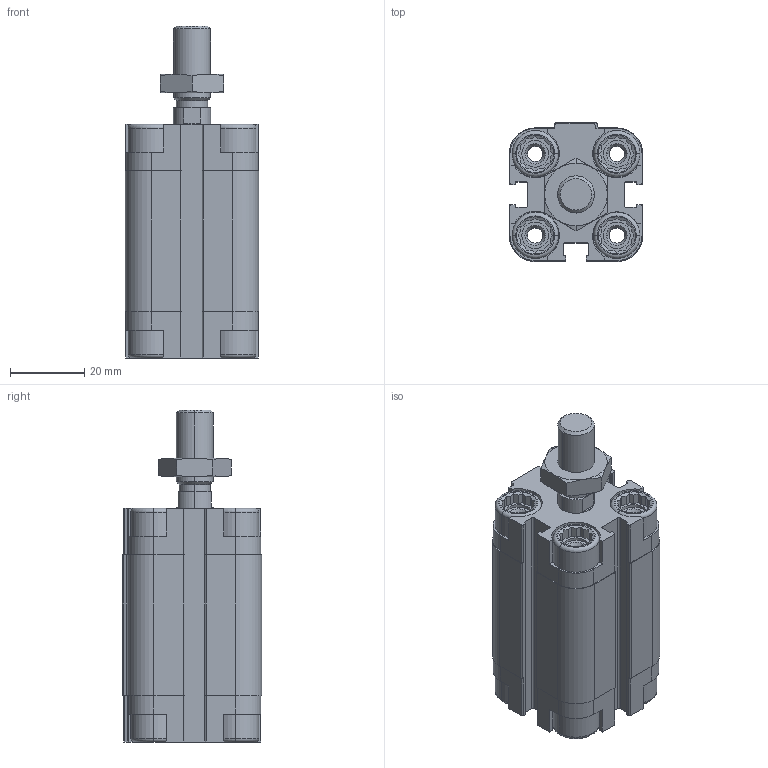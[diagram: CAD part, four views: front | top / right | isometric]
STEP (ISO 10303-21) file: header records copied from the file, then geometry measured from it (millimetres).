
FILE_DESCRIPTION (( 'STEP AP203' ), '1' );
FILE_NAME ('CDVU20-25.STEP', '2020-03-19T11:22:35', ( '' ), ( '' ), 'SwSTEP 2.0', 'SolidWorks 2019', '' );
FILE_SCHEMA (( 'CONFIG_CONTROL_DESIGN' ));
Length unit declared in the file: millimetre
Products named in the file (1): CDVU20-25
Bounding box: 36 x 37.5 x 89.5 mm (x, y, z)
Volume: 60301.1 mm3; surface area: 28253.5 mm2
Topology: 3 solids, 3 shells, 611 faces, 1602 edges, 1034 vertices
Faces by surface type: plane 361, cylinder 180, cone 54, torus 16
Entity records: 19229 total; most frequent: CARTESIAN_POINT 4104, ORIENTED_EDGE 3196, DIRECTION 3062, EDGE_CURVE 1598, AXIS2_PLACEMENT_3D 1056, VERTEX_POINT 1034, LINE 950, VECTOR 950
